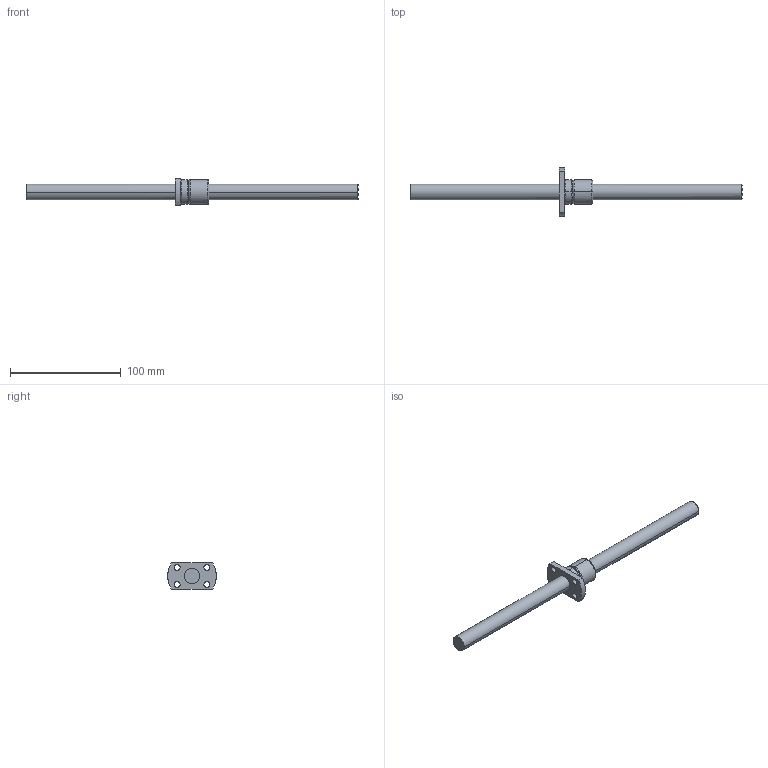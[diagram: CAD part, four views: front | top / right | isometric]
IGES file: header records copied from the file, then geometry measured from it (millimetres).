
Global section: file name: No Iges File Name specified; native system: AutoDesk Inventor R10; preprocessor: AutoDesk Inventor Iges Exporter R10; author: No Author specified; organization: No Organization specified; date: 20101224.153948; units: millimetre
Bounding box: 300 x 43.9 x 24 mm (x, y, z)
Surface area: 19003.6 mm2 (no closed solid volume)
Topology: 0 solids, 0 shells, 35 faces, 274 edges, 274 vertices
Faces by surface type: bspline 35
